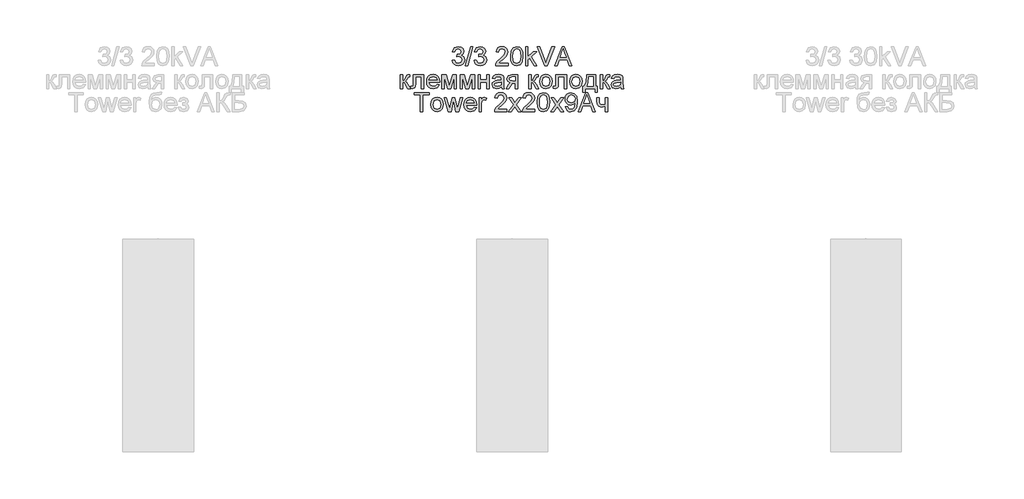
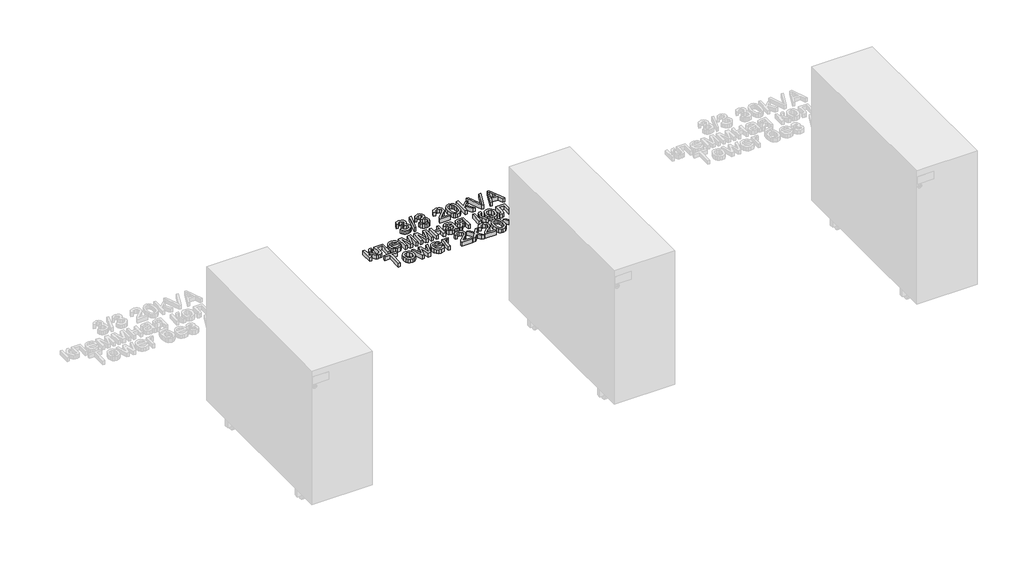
# One storey, part 30 of 74: 1 proxy.
"""IFC4 building model written with IfcOpenShell, lengths in millimetres."""

from ifc_helpers import new_model, si_unit, origin, origin_with_axes, place, context, project, spatial, polyline, outline, extrude, element, save

model = new_model("IFC4")

# Units and contexts
model_context = context("Model", 3, world=origin())
ifc_project = project(units=[si_unit("LENGTHUNIT", "METRE", prefix="MILLI")], contexts=[model_context])

# Site, building, storey
site = spatial("IfcSite", under=ifc_project)
building = spatial("IfcBuilding", under=site)
storey = spatial("IfcBuildingStorey", under=building, Name="Этаж 01", Elevation=0.0)

# Proxy
placement = place(None, origin())
element("IfcBuildingElementProxy", 1, Name="80 мм Arial", ObjectType="80 мм Arial", at=placement, inside=storey, context=model_context, shape_type="SweptSolid", body=[
    extrude(outline(polyline([(17598.3137414, -18752.4422861), (17608.3593724, -18751.1865822), (17613.9021278, -18761.7619633), (17624.2714949, -18764.9993249), (17636.475367, -18760.5455002), (17641.0076732, -18749.5188505), (17636.5146077, -18739.129863), (17625.0955506, -18735.0193948), (17618.0518367, -18736.1181357), (17619.1701979, -18726.0725047), (17620.7790685, -18726.1902269), (17632.1785053, -18723.3060321), (17637.2405615, -18714.4376235), (17633.5715518, -18706.5796641), (17624.114532, -18703.4698349), (17614.5397899, -18706.6090946), (17609.6150762, -18716.0268737), (17599.5694452, -18714.7711698), (17607.7903816, -18699.0160102), (17623.7613652, -18693.4242039), (17635.8769456, -18696.1808663), (17644.3529468, -18703.7150896), (17647.2861926, -18713.8490123), (17644.5000996, -18723.1098284), (17636.2595429, -18729.7611348), (17647.2077111, -18736.6282654), (17651.0533042, -18749.6954339), (17649.1305076, -18759.4860001), (17643.3621179, -18767.6676956), (17634.6555774, -18773.2006408), (17623.9183282, -18775.0449559), (17614.2062435, -18773.470421), (17606.2992332, -18768.7468161), (17600.8006236, -18761.5216138), (17598.3137414, -18752.4422861)])), origin_with_axes(), (0.0, 0.0, 1.0), 20.0),
    extrude(outline(polyline([(17654.8204158, -18773.789252), (17677.4230856, -18693.4242039), (17686.487698, -18693.4242039), (17663.8850282, -18773.789252), (17654.8204158, -18773.789252)])), origin_with_axes(), (0.0, 0.0, 1.0), 20.0),
    extrude(outline(polyline([(17691.2358282, -18752.4422861), (17701.2814593, -18751.1865822), (17706.8242147, -18761.7619633), (17717.1935818, -18764.9993249), (17729.3974539, -18760.5455002), (17733.9297601, -18749.5188505), (17729.4366946, -18739.129863), (17718.0176375, -18735.0193948), (17710.9739236, -18736.1181357), (17712.0922848, -18726.0725047), (17713.7011554, -18726.1902269), (17725.1005922, -18723.3060321), (17730.1626484, -18714.4376235), (17726.4936387, -18706.5796641), (17717.0366188, -18703.4698349), (17707.4618768, -18706.6090946), (17702.5371631, -18716.0268737), (17692.4915321, -18714.7711698), (17700.7124684, -18699.0160102), (17716.6834521, -18693.4242039), (17728.7990325, -18696.1808663), (17737.2750337, -18703.7150896), (17740.2082794, -18713.8490123), (17737.4221865, -18723.1098284), (17729.1816298, -18729.7611348), (17740.129798, -18736.6282654), (17743.9753911, -18749.6954339), (17742.0525945, -18759.4860001), (17736.2842048, -18767.6676956), (17727.5776643, -18773.2006408), (17716.8404151, -18775.0449559), (17707.1283304, -18773.470421), (17699.2213201, -18768.7468161), (17693.7227105, -18761.5216138), (17691.2358282, -18752.4422861)])), origin_with_axes(), (0.0, 0.0, 1.0), 20.0),
    extrude(outline(polyline([(17835.6417741, -18763.743621), (17835.6417741, -18773.789252), (17782.9022113, -18773.789252), (17783.9813318, -18766.8632603), (17790.0832678, -18756.1995876), (17802.6599269, -18744.5548961), (17820.0043367, -18727.8187179), (17824.3404392, -18716.4389015), (17820.2495914, -18707.2271364), (17809.5662983, -18703.4698349), (17798.4317365, -18707.1388447), (17794.2035461, -18717.2825776), (17784.1579151, -18716.0268737), (17786.5932939, -18706.3098839), (17791.8589116, -18699.212214), (17799.6800828, -18694.8712064), (17809.7821224, -18693.4242039), (17819.9577384, -18695.0330745), (17827.7641943, -18699.8596863), (17832.7306012, -18707.0701734), (17834.3860702, -18715.83067), (17832.6006163, -18725.3563611), (17826.6654534, -18735.2057884), (17812.2739098, -18748.9694801), (17800.71751, -18758.6325138), (17796.1852038, -18763.743621), (17835.6417741, -18763.743621)])), origin_with_axes(), (0.0, 0.0, 1.0), 20.0),
    extrude(outline(polyline([(17845.6874051, -18734.2542003), (17848.6402712, -18711.1315906), (17857.410578, -18697.7995471), (17872.0571865, -18693.4242039), (17883.7901696, -18696.0140932), (17891.8933837, -18703.4796451), (17896.6022732, -18715.3695912), (17898.4269679, -18734.2542003), (17895.5035323, -18757.2787081), (17886.7626561, -18770.6401821), (17872.0571865, -18775.0449559), (17861.619148, -18773.1319695), (17853.6925173, -18767.3930104), (17847.6886832, -18753.800997), (17845.6874051, -18734.2542003)]), holes=[polyline([(17855.7330361, -18734.2345799), (17856.9102585, -18750.0363379), (17860.4419257, -18759.1818843), (17872.0571865, -18764.9993249), (17883.6724474, -18759.1622639), (17887.2041145, -18750.0118124), (17888.3813369, -18734.2345799), (17887.2433553, -18718.7884412), (17883.8294104, -18709.5717709), (17878.5809606, -18704.9953189), (17871.9394643, -18703.4698349), (17860.5988886, -18708.8458171), (17856.9494992, -18718.6363833), (17855.7330361, -18734.2345799)])]), origin_with_axes(), (0.0, 0.0, 1.0), 20.0),
    extrude(outline(polyline([(17909.7283028, -18773.789252), (17909.7283028, -18693.4242039), (17919.7739338, -18693.4242039), (17919.7739338, -18736.608645), (17942.2981221, -18714.7711698), (17956.1893463, -18714.7711698), (17933.3904728, -18736.8833303), (17957.4450501, -18773.789252), (17945.712067, -18773.789252), (17926.1897958, -18743.8681831), (17919.7739338, -18750.0878413), (17919.7739338, -18773.789252), (17909.7283028, -18773.789252)])), origin_with_axes(), (0.0, 0.0, 1.0), 20.0),
    extrude(outline(polyline([(18032.2182919, -18773.789252), (18064.2976019, -18693.4242039), (18072.8520846, -18693.4242039), (18104.9313946, -18773.789252), (18094.3167727, -18773.789252), (18085.1148177, -18748.6751745), (18052.0152484, -18748.6751745), (18042.8329138, -18773.789252), (18032.2182919, -18773.789252)]), holes=[polyline([(18055.7038785, -18738.6295435), (18081.445808, -18738.6295435), (18074.2058903, -18718.8718278), (18068.5748432, -18703.4698349), (18063.5716481, -18717.145235), (18055.7038785, -18738.6295435)])]), origin_with_axes(), (0.0, 0.0, 1.0), 20.0),
    extrude(outline(polyline([(17991.2313326, -18773.789252), (17959.2501245, -18693.4242039), (17970.0020889, -18693.4242039), (17991.4079159, -18751.3239249), (17995.7440184, -18764.3714729), (18000.0212597, -18751.3239249), (18021.4859479, -18693.4242039), (18032.2379123, -18693.4242039), (18001.6105099, -18773.789252), (17991.2313326, -18773.789252)])), origin_with_axes(), (0.0, 0.0, 1.0), 20.0),
    extrude(outline(polyline([(17433.1886815, -18812.3510241), (17478.3940211, -18812.3510241), (17478.3940211, -18871.3102452), (17468.3483901, -18871.3102452), (17468.3483901, -18822.3966551), (17443.2343126, -18822.3966551), (17443.2343126, -18850.5518905), (17442.5574097, -18863.5405774), (17438.839349, -18869.0244717), (17430.0494219, -18871.3691063), (17421.8873467, -18870.8589766), (17421.8873467, -18861.3234753), (17426.3804121, -18861.3234753), (17430.9225285, -18860.7054335), (17432.737413, -18858.7433962), (17433.1886815, -18849.9828996), (17433.1886815, -18812.3510241)])), origin_with_axes(), (0.0, 0.0, 1.0), 20.0),
    extrude(outline(polyline([(17379.1934148, -18812.3510241), (17389.2390459, -18812.3510241), (17389.2390459, -18837.4651016), (17395.9688338, -18835.6600273), (17401.4821587, -18825.1435073), (17406.0635158, -18816.0690848), (17410.1053126, -18813.1162186), (17417.4531423, -18812.3510241), (17419.3759389, -18812.3510241), (17419.3759389, -18822.4555162), (17416.6683274, -18822.3966551), (17411.7632341, -18823.4561553), (17408.3100485, -18830.068221), (17404.2584414, -18837.219847), (17398.5783434, -18840.7220836), (17404.9157239, -18844.6314429), (17411.1353822, -18852.8670945), (17421.8873467, -18871.3691063), (17410.4682895, -18871.3691063), (17399.9321492, -18853.259502), (17394.6346485, -18845.5977463), (17389.2390459, -18843.743621), (17389.2390459, -18871.3691063), (17379.1934148, -18871.3691063), (17379.1934148, -18812.3510241)])), origin_with_axes(), (0.0, 0.0, 1.0), 20.0),
    extrude(outline(polyline([(17534.7829733, -18853.789252), (17544.6324006, -18855.0449559), (17535.4206355, -18868.0140225), (17518.2626192, -18872.6248102), (17506.4756801, -18870.6357949), (17497.4061626, -18864.6687489), (17491.6230577, -18855.1111747), (17489.695356, -18842.3505745), (17491.642678, -18829.1607787), (17497.4846441, -18819.2966362), (17506.4315342, -18813.1456492), (17517.6936284, -18811.0953202), (17528.6050084, -18813.1407441), (17537.3238116, -18819.2770158), (17543.0406979, -18829.121538), (17544.9463266, -18842.2917134), (17544.8874655, -18844.9993249), (17499.740987, -18844.9993249), (17505.5191869, -18858.046873), (17518.4588229, -18862.5791792), (17528.3082502, -18860.4797992), (17534.7829733, -18853.789252)]), holes=[polyline([(17499.740987, -18834.9536939), (17534.9006956, -18834.9536939), (17530.8785191, -18825.8498408), (17517.6543876, -18821.1409512), (17505.2837424, -18824.8982527), (17499.740987, -18834.9536939)])]), origin_with_axes(), (0.0, 0.0, 1.0), 20.0),
    extrude(outline(polyline([(17554.9919576, -18812.3510241), (17572.2775063, -18812.3510241), (17585.5997396, -18859.5968825), (17599.9618527, -18812.3510241), (17616.5214476, -18812.3510241), (17616.5214476, -18871.3691063), (17606.4758166, -18871.3691063), (17606.4758166, -18823.8485627), (17592.035222, -18871.3691063), (17578.8503313, -18871.3691063), (17565.0375886, -18821.5725994), (17565.0375886, -18871.3691063), (17554.9919576, -18871.3691063), (17554.9919576, -18812.3510241)])), origin_with_axes(), (0.0, 0.0, 1.0), 20.0),
    extrude(outline(polyline([(17631.5898941, -18812.3510241), (17648.8754428, -18812.3510241), (17662.1976761, -18859.5968825), (17676.5597892, -18812.3510241), (17693.1193841, -18812.3510241), (17693.1193841, -18871.3691063), (17683.073753, -18871.3691063), (17683.073753, -18823.8485627), (17668.6331585, -18871.3691063), (17655.4482678, -18871.3691063), (17641.6355251, -18821.5725994), (17641.6355251, -18871.3691063), (17631.5898941, -18871.3691063), (17631.5898941, -18812.3510241)])), origin_with_axes(), (0.0, 0.0, 1.0), 20.0),
    extrude(outline(polyline([(17708.1878306, -18812.3510241), (17718.2334616, -18812.3510241), (17718.2334616, -18834.9536939), (17744.603243, -18834.9536939), (17744.603243, -18812.3510241), (17754.648874, -18812.3510241), (17754.648874, -18871.3691063), (17744.603243, -18871.3691063), (17744.603243, -18844.9993249), (17718.2334616, -18844.9993249), (17718.2334616, -18871.3691063), (17708.1878306, -18871.3691063), (17708.1878306, -18812.3510241)])), origin_with_axes(), (0.0, 0.0, 1.0), 20.0),
    extrude(outline(polyline([(17807.3884369, -18863.834883), (17797.6469216, -18870.6431525), (17786.885147, -18872.6248102), (17772.2973996, -18867.8570595), (17767.2059128, -18855.6728078), (17769.1287094, -18847.7265567), (17774.1809554, -18841.9581671), (17781.2148592, -18838.6619444), (17789.9066844, -18837.1511757), (17807.3295757, -18833.69799), (17807.3884369, -18831.4612675), (17804.6219643, -18824.0447664), (17793.5168331, -18821.1409512), (17783.3534798, -18823.073558), (17778.5072477, -18829.9308784), (17768.4616167, -18828.6751745), (17772.8075293, -18818.864988), (17781.5582157, -18813.1162186), (17794.8117777, -18811.0953202), (17806.9862192, -18812.8807742), (17813.86316, -18817.3640294), (17816.9435585, -18824.1821091), (17817.4340679, -18832.9720362), (17817.4340679, -18845.4702138), (17817.9441976, -18862.9225357), (17819.9454756, -18871.3691063), (17809.8998446, -18871.3691063), (17807.3884369, -18863.834883)]), holes=[polyline([(17807.3884369, -18843.743621), (17791.1820087, -18846.8240196), (17782.5392344, -18848.4525105), (17778.6249699, -18851.1012609), (17777.2515438, -18854.9664744), (17780.2436507, -18860.4013178), (17789.0237677, -18862.5791792), (17799.1871209, -18860.1756835), (17805.7403255, -18854.3582428), (17807.3295757, -18846.5885751), (17807.3884369, -18843.743621)])]), origin_with_axes(), (0.0, 0.0, 1.0), 20.0),
    extrude(outline(polyline([(17876.4521501, -18812.3510241), (17876.4521501, -18871.3691063), (17866.4065191, -18871.3691063), (17866.4065191, -18848.7664365), (17860.932435, -18848.7664365), (17853.4766932, -18850.0417608), (17846.47222, -18858.6158638), (17838.4671078, -18871.3691063), (17826.8518469, -18871.3691063), (17836.9367187, -18855.2411596), (17845.4912014, -18846.8828807), (17833.797459, -18840.7809447), (17829.9911066, -18829.4011283), (17835.1905055, -18817.079534), (17850.2393317, -18812.3510241), (17876.4521501, -18812.3510241)]), holes=[polyline([(17866.4065191, -18822.3966551), (17853.1627672, -18822.3966551), (17842.4402334, -18824.7216693), (17840.0367377, -18830.1663228), (17843.578215, -18836.6508561), (17856.1254436, -18838.7208055), (17866.4065191, -18838.7208055), (17866.4065191, -18822.3966551)])]), origin_with_axes(), (0.0, 0.0, 1.0), 20.0),
    extrude(outline(polyline([(17922.9131935, -18812.3510241), (17932.9588245, -18812.3510241), (17932.9588245, -18837.4651016), (17939.6886125, -18835.6600273), (17945.2019373, -18825.1435073), (17949.7832945, -18816.0690848), (17953.8250913, -18813.1162186), (17961.172921, -18812.3510241), (17963.0957176, -18812.3510241), (17963.0957176, -18822.4555162), (17960.3881061, -18822.3966551), (17955.4830128, -18823.4561553), (17952.0298272, -18830.068221), (17947.9782201, -18837.219847), (17942.2981221, -18840.7220836), (17948.6355026, -18844.6314429), (17954.8551609, -18852.8670945), (17965.6071253, -18871.3691063), (17954.1880682, -18871.3691063), (17943.6519279, -18853.259502), (17938.3544271, -18845.5977463), (17932.9588245, -18843.743621), (17932.9588245, -18871.3691063), (17922.9131935, -18871.3691063), (17922.9131935, -18812.3510241)])), origin_with_axes(), (0.0, 0.0, 1.0), 20.0),
    extrude(outline(polyline([(17969.374237, -18841.8600652), (17971.5471933, -18827.6303896), (17978.0660622, -18817.6289044), (17986.1202254, -18812.7287163), (17995.7636388, -18811.0953202), (18006.3169469, -18813.0843355), (18014.7463497, -18819.0513815), (18020.2719373, -18828.5255691), (18022.1137998, -18841.0360095), (18018.8568179, -18858.9101694), (18009.3703675, -18869.0244717), (17995.7636388, -18872.6248102), (17985.0827982, -18870.6431525), (17976.6632056, -18864.6981795), (17971.1964791, -18855.0253355), (17969.374237, -18841.8600652)]), holes=[polyline([(17979.419868, -18841.8404448), (17984.0698964, -18857.4092109), (17995.7636388, -18862.5791792), (18007.4181404, -18857.3797803), (18012.0681688, -18841.5265189), (18007.3887098, -18826.3109195), (17995.7636388, -18821.1409512), (17984.0698964, -18826.2912992), (17979.419868, -18841.8404448)])]), origin_with_axes(), (0.0, 0.0, 1.0), 20.0),
    extrude(outline(polyline([(18038.4379502, -18812.3510241), (18083.6432898, -18812.3510241), (18083.6432898, -18871.3102452), (18073.5976588, -18871.3102452), (18073.5976588, -18822.3966551), (18048.4835812, -18822.3966551), (18048.4835812, -18850.5518905), (18047.8066783, -18863.5405774), (18044.0886176, -18869.0244717), (18035.2986905, -18871.3691063), (18027.1366153, -18870.8589766), (18027.1366153, -18861.3234753), (18031.6296807, -18861.3234753), (18036.1717971, -18860.7054335), (18037.9866816, -18858.7433962), (18038.4379502, -18849.9828996), (18038.4379502, -18812.3510241)])), origin_with_axes(), (0.0, 0.0, 1.0), 20.0),
    extrude(outline(polyline([(18096.2003285, -18841.8600652), (18098.3732849, -18827.6303896), (18104.8921538, -18817.6289044), (18112.946317, -18812.7287163), (18122.5897303, -18811.0953202), (18133.1430385, -18813.0843355), (18141.5724413, -18819.0513815), (18147.0980288, -18828.5255691), (18148.9398914, -18841.0360095), (18145.6829094, -18858.9101694), (18136.1964591, -18869.0244717), (18122.5897303, -18872.6248102), (18111.9088897, -18870.6431525), (18103.4892971, -18864.6981795), (18098.0225707, -18855.0253355), (18096.2003285, -18841.8600652)]), holes=[polyline([(18106.2459596, -18841.8404448), (18110.895988, -18857.4092109), (18122.5897303, -18862.5791792), (18134.2442319, -18857.3797803), (18138.8942603, -18841.5265189), (18134.2148014, -18826.3109195), (18122.5897303, -18821.1409512), (18110.895988, -18826.2912992), (18106.2459596, -18841.8404448)])]), origin_with_axes(), (0.0, 0.0, 1.0), 20.0),
    extrude(outline(polyline([(18169.0311534, -18812.3510241), (18206.7022697, -18812.3510241), (18206.7022697, -18861.3234753), (18214.236493, -18861.3234753), (18214.236493, -18887.6932567), (18204.1908619, -18887.6932567), (18204.1908619, -18871.3691063), (18162.752634, -18871.3691063), (18162.752634, -18887.6932567), (18152.707003, -18887.6932567), (18152.707003, -18861.3234753), (18158.9855224, -18861.3234753), (18166.7453799, -18842.164181), (18169.0311534, -18812.3510241)]), holes=[polyline([(18177.8210805, -18822.3966551), (18175.4666358, -18845.2838203), (18170.2868573, -18861.3234753), (18196.6566387, -18861.3234753), (18196.6566387, -18822.3966551), (18177.8210805, -18822.3966551)])]), origin_with_axes(), (0.0, 0.0, 1.0), 20.0),
    extrude(outline(polyline([(18225.5378279, -18812.3510241), (18235.5834589, -18812.3510241), (18235.5834589, -18837.4651016), (18242.3132468, -18835.6600273), (18247.8265717, -18825.1435073), (18252.4079288, -18816.0690848), (18256.4497256, -18813.1162186), (18263.7975554, -18812.3510241), (18265.7203519, -18812.3510241), (18265.7203519, -18822.4555162), (18263.0127404, -18822.3966551), (18258.1076472, -18823.4561553), (18254.6544615, -18830.068221), (18250.6028545, -18837.219847), (18244.9227565, -18840.7220836), (18251.260137, -18844.6314429), (18257.4797952, -18852.8670945), (18268.2317597, -18871.3691063), (18256.8127025, -18871.3691063), (18246.2765622, -18853.259502), (18240.9790615, -18845.5977463), (18235.5834589, -18843.743621), (18235.5834589, -18871.3691063), (18225.5378279, -18871.3691063), (18225.5378279, -18812.3510241)])), origin_with_axes(), (0.0, 0.0, 1.0), 20.0),
    extrude(outline(polyline([(18312.1813954, -18863.834883), (18302.4398801, -18870.6431525), (18291.6781055, -18872.6248102), (18277.0903581, -18867.8570595), (18271.9988713, -18855.6728078), (18273.9216679, -18847.7265567), (18278.9739139, -18841.9581671), (18286.0078177, -18838.6619444), (18294.6996429, -18837.1511757), (18312.1225342, -18833.69799), (18312.1813954, -18831.4612675), (18309.4149228, -18824.0447664), (18298.3097916, -18821.1409512), (18288.1464383, -18823.073558), (18283.3002062, -18829.9308784), (18273.2545752, -18828.6751745), (18277.6004878, -18818.864988), (18286.3511742, -18813.1162186), (18299.6047362, -18811.0953202), (18311.7791777, -18812.8807742), (18318.6561185, -18817.3640294), (18321.736517, -18824.1821091), (18322.2270264, -18832.9720362), (18322.2270264, -18845.4702138), (18322.7371561, -18862.9225357), (18324.7384341, -18871.3691063), (18314.6928031, -18871.3691063), (18312.1813954, -18863.834883)]), holes=[polyline([(18312.1813954, -18843.743621), (18295.9749672, -18846.8240196), (18287.3321929, -18848.4525105), (18283.4179284, -18851.1012609), (18282.0445023, -18854.9664744), (18285.0366092, -18860.4013178), (18293.8167262, -18862.5791792), (18303.9800794, -18860.1756835), (18310.533284, -18854.3582428), (18312.1225342, -18846.5885751), (18312.1813954, -18843.743621)])]), origin_with_axes(), (0.0, 0.0, 1.0), 20.0),
    extrude(outline(polyline([(17463.9534265, -18968.9489606), (17463.9534265, -18898.6295435), (17437.5836451, -18898.6295435), (17437.5836451, -18888.5839125), (17500.368839, -18888.5839125), (17500.368839, -18898.6295435), (17473.9990575, -18898.6295435), (17473.9990575, -18968.9489606), (17463.9534265, -18968.9489606)])), origin_with_axes(), (0.0, 0.0, 1.0), 20.0),
    extrude(outline(polyline([(17507.9030622, -18939.4399195), (17510.0760185, -18925.2102439), (17516.5948875, -18915.2087587), (17524.6490506, -18910.3085705), (17534.292464, -18908.6751745), (17544.8457722, -18910.6641898), (17553.275175, -18916.6312358), (17558.8007625, -18926.1054234), (17560.6426251, -18938.6158638), (17557.3856431, -18956.4900237), (17547.8991927, -18966.604326), (17534.292464, -18970.2046645), (17523.6116234, -18968.2230068), (17515.1920308, -18962.2780337), (17509.7253044, -18952.6051898), (17507.9030622, -18939.4399195)]), holes=[polyline([(17517.9486932, -18939.4202991), (17522.5987217, -18954.9890651), (17534.292464, -18960.1590334), (17545.9469656, -18954.9596346), (17550.596994, -18939.1063731), (17545.9175351, -18923.8907738), (17534.292464, -18918.7208055), (17522.5987217, -18923.8711534), (17517.9486932, -18939.4202991)])]), origin_with_axes(), (0.0, 0.0, 1.0), 20.0),
    extrude(outline(polyline([(17581.7345261, -18968.9489606), (17563.7818847, -18909.9308784), (17574.2199232, -18909.9308784), (17584.4028968, -18944.3646331), (17587.4440547, -18956.666607), (17589.9358421, -18944.8159017), (17598.0390561, -18909.9308784), (17610.0074837, -18909.9308784), (17618.071457, -18944.7177998), (17620.2885592, -18955.4501439), (17623.4670596, -18944.1291886), (17633.6696536, -18909.9308784), (17644.1469329, -18909.9308784), (17626.0569489, -18968.9489606), (17613.911938, -18968.9489606), (17606.2011313, -18934.3386225), (17603.9644088, -18923.5474173), (17594.0168797, -18968.9489606), (17581.7345261, -18968.9489606)])), origin_with_axes(), (0.0, 0.0, 1.0), 20.0),
    extrude(outline(polyline([(17692.3738099, -18951.3691063), (17702.2232372, -18952.6248102), (17693.011472, -18965.5938768), (17675.8534558, -18970.2046645), (17664.0665166, -18968.2156491), (17654.9969992, -18962.2486032), (17649.2138942, -18952.6910289), (17647.2861926, -18939.9304288), (17649.2335146, -18926.740633), (17655.0754807, -18916.8764904), (17664.0223708, -18910.7255035), (17675.2844649, -18908.6751745), (17686.1958449, -18910.7205984), (17694.9146482, -18916.8568701), (17700.6315344, -18926.7013923), (17702.5371631, -18939.8715677), (17702.478302, -18942.5791792), (17657.3318236, -18942.5791792), (17663.1100234, -18955.6267273), (17676.0496595, -18960.1590334), (17685.8990868, -18958.0596535), (17692.3738099, -18951.3691063)]), holes=[polyline([(17657.3318236, -18932.5335481), (17692.4915321, -18932.5335481), (17688.4693556, -18923.429695), (17675.2452242, -18918.7208055), (17662.874579, -18922.4781069), (17657.3318236, -18932.5335481)])]), origin_with_axes(), (0.0, 0.0, 1.0), 20.0),
    extrude(outline(polyline([(17712.5827942, -18968.9489606), (17712.5827942, -18909.9308784), (17721.3727213, -18909.9308784), (17721.3727213, -18918.6619444), (17727.6119999, -18910.6175914), (17733.8905193, -18908.6751745), (17743.9753911, -18911.7751934), (17740.6203073, -18920.7809447), (17733.556973, -18918.7208055), (17727.876875, -18920.7024632), (17724.2569161, -18926.1961676), (17722.6284252, -18937.9291507), (17722.6284252, -18968.9489606), (17712.5827942, -18968.9489606)])), origin_with_axes(), (0.0, 0.0, 1.0), 20.0),
    extrude(outline(polyline([(17830.6189586, -18958.9033296), (17830.6189586, -18968.9489606), (17777.8793957, -18968.9489606), (17778.9585163, -18962.0229689), (17785.0604523, -18951.3592961), (17797.6371114, -18939.7146047), (17814.9815212, -18922.9784265), (17819.3176237, -18911.5986101), (17815.2267759, -18902.3868449), (17804.5434828, -18898.6295435), (17793.408921, -18902.2985532), (17789.1807306, -18912.4422861), (17779.1350996, -18911.1865822), (17781.5704784, -18901.4695925), (17786.8360961, -18894.3719225), (17794.6572673, -18890.030915), (17804.7593069, -18888.5839125), (17814.9349228, -18890.1927831), (17822.7413788, -18895.0193948), (17827.7077857, -18902.2298819), (17829.3632547, -18910.9903785), (17827.5778008, -18920.5160696), (17821.6426379, -18930.3654969), (17807.2510942, -18944.1291886), (17795.6946945, -18953.7922224), (17791.1623883, -18958.9033296), (17830.6189586, -18958.9033296)])), origin_with_axes(), (0.0, 0.0, 1.0), 20.0),
    extrude(outline(polyline([(17836.897478, -18968.9489606), (17858.3621661, -18939.2829565), (17838.1531818, -18909.9308784), (17850.2393317, -18909.9308784), (17859.9906571, -18924.057547), (17864.5425836, -18930.7284738), (17868.4862786, -18925.2740101), (17879.5914098, -18909.9308784), (17891.6775596, -18909.9308784), (17870.4483159, -18939.2829565), (17890.8927447, -18968.9489606), (17878.8065949, -18968.9489606), (17866.5046209, -18951.1140415), (17864.248278, -18947.8570595), (17848.9836278, -18968.9489606), (17836.897478, -18968.9489606)])), origin_with_axes(), (0.0, 0.0, 1.0), 20.0),
    extrude(outline(polyline([(17948.655123, -18958.9033296), (17948.655123, -18968.9489606), (17895.9155602, -18968.9489606), (17896.9946807, -18962.0229689), (17903.0966167, -18951.3592961), (17915.6732759, -18939.7146047), (17933.0176857, -18922.9784265), (17937.3537881, -18911.5986101), (17933.2629403, -18902.3868449), (17922.5796472, -18898.6295435), (17911.4450855, -18902.2985532), (17907.2168951, -18912.4422861), (17897.1712641, -18911.1865822), (17899.6066429, -18901.4695925), (17904.8722605, -18894.3719225), (17912.6934317, -18890.030915), (17922.7954713, -18888.5839125), (17932.9710873, -18890.1927831), (17940.7775432, -18895.0193948), (17945.7439501, -18902.2298819), (17947.3994191, -18910.9903785), (17945.6139652, -18920.5160696), (17939.6788023, -18930.3654969), (17925.2872587, -18944.1291886), (17913.7308589, -18953.7922224), (17909.1985527, -18958.9033296), (17948.655123, -18958.9033296)])), origin_with_axes(), (0.0, 0.0, 1.0), 20.0),
    extrude(outline(polyline([(17958.700754, -18929.4139088), (17961.6536202, -18906.2912992), (17970.4239269, -18892.9592557), (17985.0705354, -18888.5839125), (17996.8035185, -18891.1738017), (18004.9067326, -18898.6393537), (18009.6156222, -18910.5292997), (18011.4403168, -18929.4139088), (18008.5168813, -18952.4384166), (17999.7760051, -18965.7998907), (17985.0705354, -18970.2046645), (17974.632497, -18968.2916781), (17966.7058662, -18962.552719), (17960.7020321, -18948.9607055), (17958.700754, -18929.4139088)]), holes=[polyline([(17968.746385, -18929.3942885), (17969.9236074, -18945.1960464), (17973.4552746, -18954.3415928), (17985.0705354, -18960.1590334), (17996.6857963, -18954.3219724), (18000.2174634, -18945.171521), (18001.3946858, -18929.3942885), (18000.2567042, -18913.9481498), (17996.8427593, -18904.7314795), (17991.5943095, -18900.1550275), (17984.9528132, -18898.6295435), (17973.6122376, -18904.0055257), (17969.9628482, -18913.7960919), (17968.746385, -18929.3942885)])]), origin_with_axes(), (0.0, 0.0, 1.0), 20.0),
    extrude(outline(polyline([(18016.4631324, -18968.9489606), (18037.9278205, -18939.2829565), (18017.7188362, -18909.9308784), (18029.804986, -18909.9308784), (18039.5563115, -18924.057547), (18044.108238, -18930.7284738), (18048.051933, -18925.2740101), (18059.1570642, -18909.9308784), (18071.243214, -18909.9308784), (18050.0139703, -18939.2829565), (18070.4583991, -18968.9489606), (18058.3722492, -18968.9489606), (18046.0702753, -18951.1140415), (18043.8139324, -18947.8570595), (18028.5492822, -18968.9489606), (18016.4631324, -18968.9489606)])), origin_with_axes(), (0.0, 0.0, 1.0), 20.0),
    extrude(outline(polyline([(18077.9926223, -18948.8576985), (18088.0382533, -18947.6019947), (18092.5509391, -18957.1865469), (18101.1054218, -18960.1590334), (18109.2380664, -18958.2460471), (18114.7513913, -18953.1349399), (18118.0378038, -18944.4038739), (18119.4897114, -18932.7493723), (18119.4308503, -18930.7873349), (18111.3963075, -18938.4000397), (18100.379468, -18941.3234753), (18091.2192063, -18939.5380213), (18083.5942388, -18934.1816595), (18078.4512485, -18925.9067671), (18076.7369184, -18915.3657217), (18078.5346351, -18904.4764147), (18083.9277852, -18895.9415524), (18092.0285467, -18890.4233224), (18101.9490978, -18888.5839125), (18116.26216, -18892.7826723), (18126.1115873, -18904.7510999), (18129.4764813, -18927.2360474), (18126.1213975, -18951.6339813), (18116.1444378, -18965.4565342), (18100.6345329, -18970.2046645), (18092.0457145, -18968.8042603), (18085.1932992, -18964.6030479), (18077.9926223, -18948.8576985)]), holes=[polyline([(18119.4308503, -18915.1302772), (18115.0947478, -18903.0833682), (18103.5775888, -18898.6295435), (18091.491439, -18903.4267247), (18086.7825495, -18915.856231), (18091.2363741, -18926.9907928), (18103.3029036, -18931.2778443), (18114.8887339, -18926.9907928), (18119.4308503, -18915.1302772)])]), origin_with_axes(), (0.0, 0.0, 1.0), 20.0),
    extrude(outline(polyline([(18132.6746021, -18968.9489606), (18164.7539121, -18888.5839125), (18173.3083947, -18888.5839125), (18205.3877047, -18968.9489606), (18194.7730829, -18968.9489606), (18185.5711279, -18943.834883), (18152.4715585, -18943.834883), (18143.2892239, -18968.9489606), (18132.6746021, -18968.9489606)]), holes=[polyline([(18156.1601887, -18933.789252), (18181.9021181, -18933.789252), (18174.6622005, -18914.0315363), (18169.0311534, -18898.6295435), (18164.0279583, -18912.3049435), (18156.1601887, -18933.789252)])]), origin_with_axes(), (0.0, 0.0, 1.0), 20.0),
    extrude(outline(polyline([(18211.0972333, -18909.9308784), (18221.1428643, -18909.9308784), (18221.1428643, -18921.2518336), (18221.9571098, -18931.8664555), (18225.8713742, -18937.6152248), (18233.6410419, -18940.0677714), (18247.5126457, -18937.0266136), (18247.5126457, -18909.9308784), (18257.5582767, -18909.9308784), (18257.5582767, -18968.9489606), (18247.5126457, -18968.9489606), (18247.5126457, -18946.6602168), (18230.9530508, -18950.1134024), (18219.5634243, -18946.513064), (18212.8630668, -18937.6937063), (18211.0972333, -18926.215788), (18211.0972333, -18909.9308784)])), origin_with_axes(), (0.0, 0.0, 1.0), 20.0),
])

save(model, "model.ifc")
